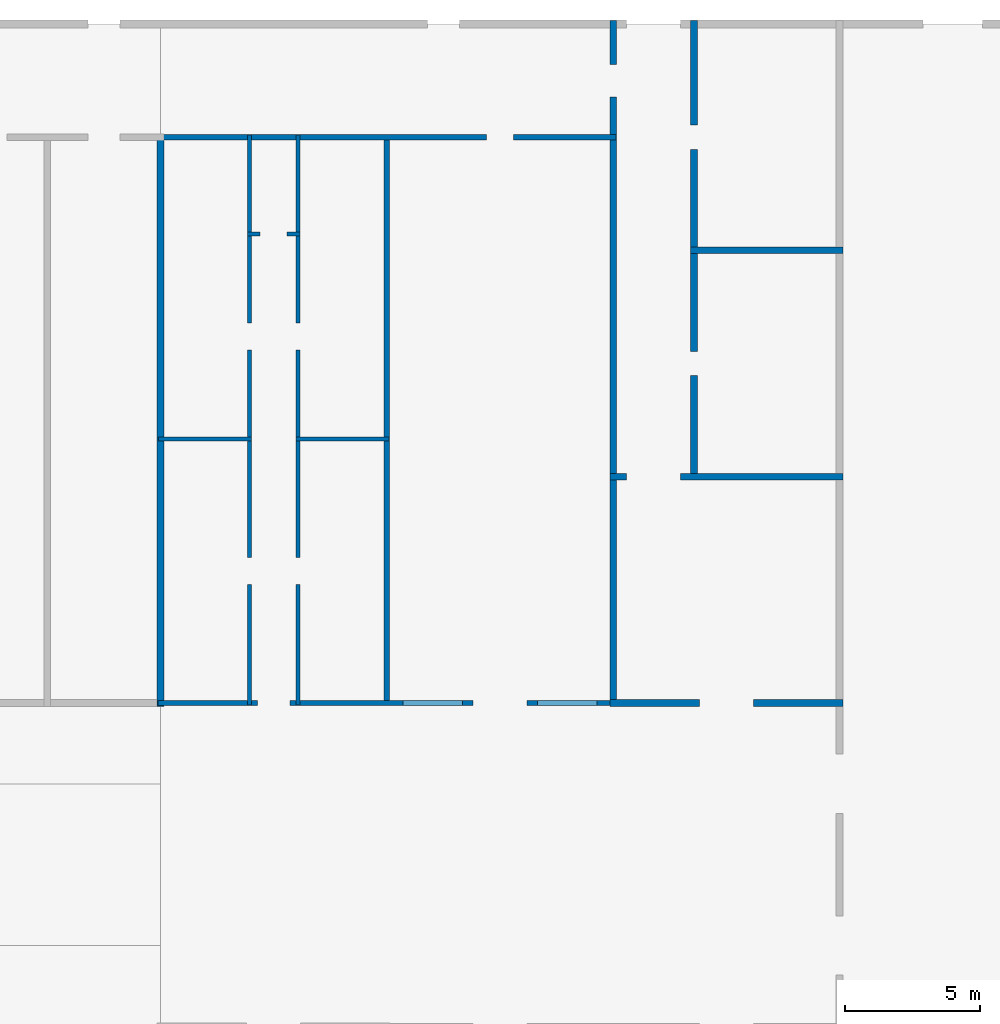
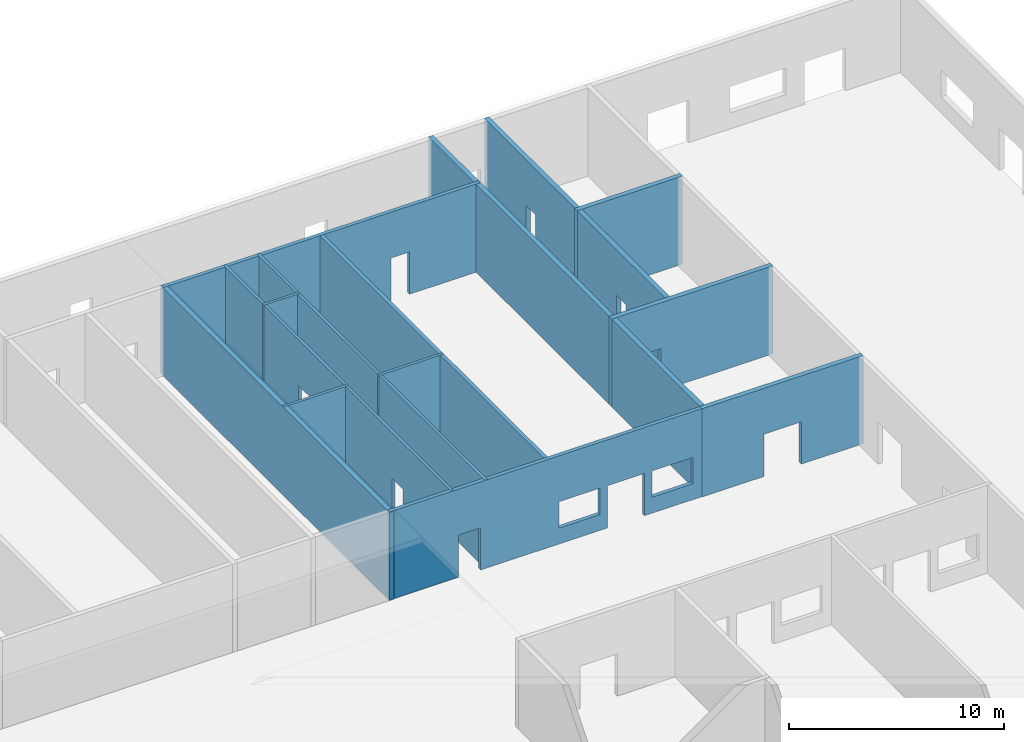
# One storey, part 4 of 4: 14 walls, 18 openings.
"""IFC4 building model written with IfcOpenShell, lengths in millimetres."""

from ifc_helpers import new_model, si_unit, frame, origin_with_axes, place, context, subcontext, project, spatial, indexed_curve, outline, extrude, type_object, element, save


model = new_model("IFC4")

# Units and contexts
model_context = context("Model", 3, precision=1e-05, world=origin_with_axes())
body_context = subcontext(model_context, "Body", "Model", "MODEL_VIEW")
ifc_project = project(units=[si_unit("AREAUNIT", "SQUARE_METRE"), si_unit("VOLUMEUNIT", "CUBIC_METRE"), si_unit("LENGTHUNIT", "METRE", prefix="MILLI")], contexts=[model_context])

# Site, building, storey
site = spatial("IfcSite", under=ifc_project, Name="PIN 00000000 (sample)")
building = spatial("IfcBuilding", under=site, Name="Sample Shopping Mall")
storey = spatial("IfcBuildingStorey", under=building, Name="Ground Floor", Elevation=0.0)

# Wall, openings
wall_type_1 = type_object("IfcWallType", Name="WT-200", PredefinedType="SOLIDWALL")
wall_1_placement = place(None, frame((72500.0, 52699.99999999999, 0.0), z_axis=(0.0, 0.0, 1.0), x_axis=(1.0, 0.0, 0.0)))
wall_1 = element("IfcWall", 1, at=wall_1_placement, inside=storey, type_object=wall_type_1, Name="W17", context=body_context, shape_type="SweptSolid", body=[
    extrude(outline(indexed_curve([(0.0, 0.0), (0.0, 200.0), (17000.00000000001, 200.0), (17000.00000000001, 0.0), (0.0, 0.0)], self_intersect=False)), origin_with_axes(), (0.0, 0.0, 1.0), 5000.0),
])
opening_1_placement = place(wall_1_placement, frame((3699.9999999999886, -100.00000000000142, 0.0), z_axis=(0.0, 0.0, 1.0), x_axis=(1.0, 0.0, 0.0)))
element("IfcOpeningElement", 2, at=opening_1_placement, cuts=wall_1, Name="D74-opening", context=body_context, shape_type="SweptSolid", body=[
    extrude(outline(indexed_curve([(0.0, 0.0), (0.0, 400.0), (1200.0, 400.0), (1200.0, 0.0), (0.0, 0.0)], self_intersect=False)), origin_with_axes(), (0.0, 0.0, 1.0), 2400.0),
])
opening_2_placement = place(wall_1_placement, frame((11699.999999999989, -100.00000000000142, 0.0), z_axis=(0.0, 0.0, 1.0), x_axis=(1.0, 0.0, 0.0)))
element("IfcOpeningElement", 3, at=opening_2_placement, cuts=wall_1, Name="D80-opening", context=body_context, shape_type="SweptSolid", body=[
    extrude(outline(indexed_curve([(0.0, 0.0), (0.0, 400.0), (1000.0, 400.0), (1000.0, 0.0), (0.0, 0.0)], self_intersect=False)), origin_with_axes(), (0.0, 0.0, 1.0), 2400.0),
])
opening_3_placement = place(wall_1_placement, frame((12699.999999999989, -100.00000000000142, 0.0), z_axis=(0.0, 0.0, 1.0), x_axis=(1.0, 0.0, 0.0)))
element("IfcOpeningElement", 4, at=opening_3_placement, cuts=wall_1, Name="-opening", context=body_context, shape_type="SweptSolid", body=[
    extrude(outline(indexed_curve([(0.0, 0.0), (0.0, 400.0), (1000.0, 400.0), (1000.0, 0.0), (0.0, 0.0)], self_intersect=False)), origin_with_axes(), (0.0, 0.0, 1.0), 2400.0),
])
opening_4_placement = place(wall_1_placement, frame((9099.99999999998, -100.00000000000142, 900.0), z_axis=(0.0, 0.0, 1.0), x_axis=(1.0, 0.0, 0.0)))
element("IfcOpeningElement", 5, at=opening_4_placement, cuts=wall_1, Name="-opening", context=body_context, shape_type="SweptSolid", body=[
    extrude(outline(indexed_curve([(0.0, 0.0), (0.0, 400.0), (2200.0, 400.0), (2200.0, 0.0), (0.0, 0.0)], self_intersect=False)), origin_with_axes(), (0.0, 0.0, 1.0), 1500.0),
])
opening_5_placement = place(wall_1_placement, frame((14099.999999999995, -100.00000000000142, 900.0), z_axis=(0.0, 0.0, 1.0), x_axis=(1.0, 0.0, 0.0)))
element("IfcOpeningElement", 6, at=opening_5_placement, cuts=wall_1, Name="-opening", context=body_context, shape_type="SweptSolid", body=[
    extrude(outline(indexed_curve([(0.0, 0.0), (0.0, 400.0), (2200.0, 400.0), (2200.0, 0.0), (0.0, 0.0)], self_intersect=False)), origin_with_axes(), (0.0, 0.0, 1.0), 1500.0),
])

# Wall, opening
wall_2_placement = place(None, frame((72500.0, 73700.0, 0.0), z_axis=(0.0, 0.0, 1.0), x_axis=(1.0, 0.0, 0.0)))
wall_2 = element("IfcWall", 7, at=wall_2_placement, inside=storey, type_object=wall_type_1, Name="W33", context=body_context, shape_type="SweptSolid", body=[
    extrude(outline(indexed_curve([(0.0, 0.0), (0.0, 200.0), (17000.00000000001, 200.0), (17000.00000000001, 0.0), (0.0, 0.0)], self_intersect=False)), origin_with_axes(), (0.0, 0.0, 1.0), 5000.0),
])
opening_6_placement = place(wall_2_placement, frame((12199.999999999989, -99.99999999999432, 0.0), z_axis=(0.0, 0.0, 1.0), x_axis=(1.0, 0.0, 0.0)))
element("IfcOpeningElement", 8, at=opening_6_placement, cuts=wall_2, Name="-opening", context=body_context, shape_type="SweptSolid", body=[
    extrude(outline(indexed_curve([(0.0, 0.0), (0.0, 400.0), (1000.0, 400.0), (1000.0, 0.0), (0.0, 0.0)], self_intersect=False)), origin_with_axes(), (0.0, 0.0, 1.0), 2400.0),
])

# Wall
wall_3_placement = place(None, frame((81099.99999999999, 52699.99999999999, 0.0), z_axis=(0.0, 0.0, 1.0), x_axis=(6.123233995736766e-17, 1.0, 0.0)))
element("IfcWall", 9, at=wall_3_placement, inside=storey, type_object=wall_type_1, Name="W60", context=body_context, shape_type="SweptSolid", body=[
    extrude(outline(indexed_curve([(0.0, 0.0), (0.0, 200.0), (21200.0, 200.0), (21200.0, 0.0), (0.0, 0.0)], self_intersect=False)), origin_with_axes(), (0.0, 0.0, 1.0), 5000.0),
])

# Wall, openings
wall_type_2 = type_object("IfcWallType", Name="WT-250", PredefinedType="SOLIDWALL")
wall_4_placement = place(None, frame((89275.0, 52674.99999999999, 0.0), z_axis=(0.0, 0.0, 1.0), x_axis=(1.0, 0.0, 0.0)))
wall_4 = element("IfcWall", 10, at=wall_4_placement, inside=storey, type_object=wall_type_2, Name="W18", context=body_context, shape_type="SweptSolid", body=[
    extrude(outline(indexed_curve([(0.0, 0.0), (0.0, 250.0), (8649.99999999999, 250.0), (8649.99999999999, 0.0), (0.0, 0.0)], self_intersect=False)), origin_with_axes(), (0.0, 0.0, 1.0), 5000.0),
])
opening_7_placement = place(wall_4_placement, frame((3325.0000000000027, -100.00000000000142, 0.0), z_axis=(0.0, 0.0, 1.0), x_axis=(1.0, 0.0, 0.0)))
element("IfcOpeningElement", 11, at=opening_7_placement, cuts=wall_4, Name="D82-opening", context=body_context, shape_type="SweptSolid", body=[
    extrude(outline(indexed_curve([(0.0, 0.0), (0.0, 450.0), (1000.0, 450.0), (1000.0, 0.0), (0.0, 0.0)], self_intersect=False)), origin_with_axes(), (0.0, 0.0, 1.0), 2400.0),
])
opening_8_placement = place(wall_4_placement, frame((4325.000000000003, -100.00000000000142, 0.0), z_axis=(0.0, 0.0, 1.0), x_axis=(1.0, 0.0, 0.0)))
element("IfcOpeningElement", 12, at=opening_8_placement, cuts=wall_4, Name="-opening", context=body_context, shape_type="SweptSolid", body=[
    extrude(outline(indexed_curve([(0.0, 0.0), (0.0, 450.0), (1000.0, 450.0), (1000.0, 0.0), (0.0, 0.0)], self_intersect=False)), origin_with_axes(), (0.0, 0.0, 1.0), 2400.0),
])

wall_5_placement = place(None, frame((89275.0, 61075.0, 0.0), z_axis=(0.0, 0.0, 1.0), x_axis=(1.0, 0.0, 0.0)))
wall_5 = element("IfcWall", 13, at=wall_5_placement, inside=storey, type_object=wall_type_2, Name="W20", context=body_context, shape_type="SweptSolid", body=[
    extrude(outline(indexed_curve([(0.0, 0.0), (0.0, 250.0), (8649.99999999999, 250.0), (8649.99999999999, 0.0), (0.0, 0.0)], self_intersect=False)), origin_with_axes(), (0.0, 0.0, 1.0), 5000.0),
])
opening_9_placement = place(wall_5_placement, frame((625.0, -100.00000000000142, 0.0), z_axis=(0.0, 0.0, 1.0), x_axis=(1.0, 0.0, 0.0)))
element("IfcOpeningElement", 14, at=opening_9_placement, cuts=wall_5, Name="D83-opening", context=body_context, shape_type="SweptSolid", body=[
    extrude(outline(indexed_curve([(0.0, 0.0), (0.0, 450.0), (1000.0, 450.0), (1000.0, 0.0), (0.0, 0.0)], self_intersect=False)), origin_with_axes(), (0.0, 0.0, 1.0), 2400.0),
])
opening_10_placement = place(wall_5_placement, frame((1625.0, -100.00000000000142, 0.0), z_axis=(0.0, 0.0, 1.0), x_axis=(1.0, 0.0, 0.0)))
element("IfcOpeningElement", 15, at=opening_10_placement, cuts=wall_5, Name="-opening", context=body_context, shape_type="SweptSolid", body=[
    extrude(outline(indexed_curve([(0.0, 0.0), (0.0, 450.0), (1000.0, 450.0), (1000.0, 0.0), (0.0, 0.0)], self_intersect=False)), origin_with_axes(), (0.0, 0.0, 1.0), 2400.0),
])

# Walls
wall_6_placement = place(None, frame((92275.0, 69475.0, 0.0), z_axis=(0.0, 0.0, 1.0), x_axis=(1.0, 0.0, 0.0)))
element("IfcWall", 16, at=wall_6_placement, inside=storey, type_object=wall_type_2, Name="W26", context=body_context, shape_type="SweptSolid", body=[
    extrude(outline(indexed_curve([(0.0, 0.0), (0.0, 250.0), (5649.999999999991, 250.0), (5649.999999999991, 0.0), (0.0, 0.0)], self_intersect=False)), origin_with_axes(), (0.0, 0.0, 1.0), 5000.0),
])
wall_7_placement = place(None, frame((72725.0, 52674.99999999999, 0.0), z_axis=(0.0, 0.0, 1.0), x_axis=(6.123233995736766e-17, 1.0, 0.0)))
element("IfcWall", 17, at=wall_7_placement, inside=storey, type_object=wall_type_2, Name="W55", context=body_context, shape_type="SweptSolid", body=[
    extrude(outline(indexed_curve([(0.0, 0.0), (0.0, 250.0), (21250.0, 250.0), (21250.0, 0.0), (0.0, 0.0)], self_intersect=False)), origin_with_axes(), (0.0, 0.0, 1.0), 5000.0),
])

# Wall, opening
wall_8_placement = place(None, frame((89525.0, 52674.99999999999, 0.0), z_axis=(0.0, 0.0, 1.0), x_axis=(6.123233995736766e-17, 1.0, 0.0)))
wall_8 = element("IfcWall", 18, at=wall_8_placement, inside=storey, type_object=wall_type_2, Name="W62", context=body_context, shape_type="SweptSolid", body=[
    extrude(outline(indexed_curve([(0.0, 0.0), (0.0, 250.0), (25450.000000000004, 250.0), (25450.000000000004, 0.0), (0.0, 0.0)], self_intersect=False)), origin_with_axes(), (0.0, 0.0, 1.0), 5000.0),
])
opening_11_placement = place(wall_8_placement, frame((22624.999999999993, -99.99999999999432, 0.0), z_axis=(0.0, 0.0, 1.0), x_axis=(1.0, 0.0, 0.0)))
element("IfcOpeningElement", 19, at=opening_11_placement, cuts=wall_8, Name="-opening", context=body_context, shape_type="SweptSolid", body=[
    extrude(outline(indexed_curve([(0.0, 0.0), (0.0, 450.0), (1200.0, 450.0), (1200.0, 0.0), (0.0, 0.0)], self_intersect=False)), origin_with_axes(), (0.0, 0.0, 1.0), 2400.0),
])

# Wall, openings
wall_9_placement = place(None, frame((92525.0, 61075.0, 0.0), z_axis=(0.0, 0.0, 1.0), x_axis=(6.123233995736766e-17, 1.0, 0.0)))
wall_9 = element("IfcWall", 20, at=wall_9_placement, inside=storey, type_object=wall_type_2, Name="W63", context=body_context, shape_type="SweptSolid", body=[
    extrude(outline(indexed_curve([(0.0, 0.0), (0.0, 250.0), (17049.999999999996, 250.0), (17049.999999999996, 0.0), (0.0, 0.0)], self_intersect=False)), origin_with_axes(), (0.0, 0.0, 1.0), 5000.0),
])
opening_12_placement = place(wall_9_placement, frame((3874.9999999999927, -99.99999999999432, 0.0), z_axis=(0.0, 0.0, 1.0), x_axis=(1.0, 0.0, 0.0)))
element("IfcOpeningElement", 21, at=opening_12_placement, cuts=wall_9, Name="-opening", context=body_context, shape_type="SweptSolid", body=[
    extrude(outline(indexed_curve([(0.0, 0.0), (0.0, 450.0), (900.0, 450.0), (900.0, 0.0), (0.0, 0.0)], self_intersect=False)), origin_with_axes(), (0.0, 0.0, 1.0), 2400.0),
])
opening_13_placement = place(wall_9_placement, frame((12274.999999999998, -99.99999999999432, 0.0), z_axis=(0.0, 0.0, 1.0), x_axis=(1.0, 0.0, 0.0)))
element("IfcOpeningElement", 22, at=opening_13_placement, cuts=wall_9, Name="-opening", context=body_context, shape_type="SweptSolid", body=[
    extrude(outline(indexed_curve([(0.0, 0.0), (0.0, 450.0), (900.0, 450.0), (900.0, 0.0), (0.0, 0.0)], self_intersect=False)), origin_with_axes(), (0.0, 0.0, 1.0), 2400.0),
])

# Walls
wall_type_3 = type_object("IfcWallType", Name="WT-150", PredefinedType="SOLIDWALL")
wall_10_placement = place(None, frame((72524.99999999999, 62525.0, 0.0), z_axis=(0.0, 0.0, 1.0), x_axis=(1.0, 0.0, 0.0)))
element("IfcWall", 23, at=wall_10_placement, inside=storey, type_object=wall_type_3, Name="W23", context=body_context, shape_type="SweptSolid", body=[
    extrude(outline(indexed_curve([(0.0, 0.0), (0.0, 150.0), (3450.0000000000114, 150.0), (3450.0000000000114, 0.0), (0.0, 0.0)], self_intersect=False)), origin_with_axes(), (0.0, 0.0, 1.0), 5000.0),
])
wall_11_placement = place(None, frame((77625.0, 62525.0, 0.0), z_axis=(0.0, 0.0, 1.0), x_axis=(1.0, 0.0, 0.0)))
element("IfcWall", 24, at=wall_11_placement, inside=storey, type_object=wall_type_3, Name="W24", context=body_context, shape_type="SweptSolid", body=[
    extrude(outline(indexed_curve([(0.0, 0.0), (0.0, 150.0), (3449.999999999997, 150.0), (3449.999999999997, 0.0), (0.0, 0.0)], self_intersect=False)), origin_with_axes(), (0.0, 0.0, 1.0), 5000.0),
])

# Wall, opening
wall_12_placement = place(None, frame((75825.0, 70125.0, 0.0), z_axis=(0.0, 0.0, 1.0), x_axis=(1.0, 0.0, 0.0)))
wall_12 = element("IfcWall", 25, at=wall_12_placement, inside=storey, type_object=wall_type_3, Name="W28", context=body_context, shape_type="SweptSolid", body=[
    extrude(outline(indexed_curve([(0.0, 0.0), (0.0, 150.0), (1949.999999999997, 150.0), (1949.999999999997, 0.0), (0.0, 0.0)], self_intersect=False)), origin_with_axes(), (0.0, 0.0, 1.0), 5000.0),
])
opening_14_placement = place(wall_12_placement, frame((475.0000000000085, -99.99999999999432, 0.0), z_axis=(0.0, 0.0, 1.0), x_axis=(1.0, 0.0, 0.0)))
element("IfcOpeningElement", 26, at=opening_14_placement, cuts=wall_12, Name="-opening", context=body_context, shape_type="SweptSolid", body=[
    extrude(outline(indexed_curve([(0.0, 0.0), (0.0, 349.99999999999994), (1000.0, 349.99999999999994), (1000.0, 0.0), (0.0, 0.0)], self_intersect=False)), origin_with_axes(), (0.0, 0.0, 1.0), 2400.0),
])

# Wall, openings
wall_13_placement = place(None, frame((75975.0, 52724.99999999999, 0.0), z_axis=(0.0, 0.0, 1.0), x_axis=(6.123233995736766e-17, 1.0, 0.0)))
wall_13 = element("IfcWall", 27, at=wall_13_placement, inside=storey, type_object=wall_type_3, Name="W57", context=body_context, shape_type="SweptSolid", body=[
    extrude(outline(indexed_curve([(0.0, 0.0), (0.0, 150.0), (21149.999999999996, 150.0), (21149.999999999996, 0.0), (0.0, 0.0)], self_intersect=False)), origin_with_axes(), (0.0, 0.0, 1.0), 5000.0),
])
opening_15_placement = place(wall_13_placement, frame((4475.000000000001, -99.99999999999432, 0.0), z_axis=(0.0, 0.0, 1.0), x_axis=(1.0, 0.0, 0.0)))
element("IfcOpeningElement", 28, at=opening_15_placement, cuts=wall_13, Name="-opening", context=body_context, shape_type="SweptSolid", body=[
    extrude(outline(indexed_curve([(0.0, 0.0), (0.0, 349.99999999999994), (1000.0, 349.99999999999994), (1000.0, 0.0), (0.0, 0.0)], self_intersect=False)), origin_with_axes(), (0.0, 0.0, 1.0), 2400.0),
])
opening_16_placement = place(wall_13_placement, frame((13174.999999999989, -99.99999999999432, 0.0), z_axis=(0.0, 0.0, 1.0), x_axis=(1.0, 0.0, 0.0)))
element("IfcOpeningElement", 29, at=opening_16_placement, cuts=wall_13, Name="-opening", context=body_context, shape_type="SweptSolid", body=[
    extrude(outline(indexed_curve([(0.0, 0.0), (0.0, 349.99999999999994), (1000.0, 349.99999999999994), (1000.0, 0.0), (0.0, 0.0)], self_intersect=False)), origin_with_axes(), (0.0, 0.0, 1.0), 2400.0),
])

wall_14_placement = place(None, frame((77775.0, 52724.99999999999, 0.0), z_axis=(0.0, 0.0, 1.0), x_axis=(6.123233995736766e-17, 1.0, 0.0)))
wall_14 = element("IfcWall", 30, at=wall_14_placement, inside=storey, type_object=wall_type_3, Name="W58", context=body_context, shape_type="SweptSolid", body=[
    extrude(outline(indexed_curve([(0.0, 0.0), (0.0, 150.0), (21149.999999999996, 150.0), (21149.999999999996, 0.0), (0.0, 0.0)], self_intersect=False)), origin_with_axes(), (0.0, 0.0, 1.0), 5000.0),
])
opening_17_placement = place(wall_14_placement, frame((4475.000000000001, -99.99999999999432, 0.0), z_axis=(0.0, 0.0, 1.0), x_axis=(1.0, 0.0, 0.0)))
element("IfcOpeningElement", 31, at=opening_17_placement, cuts=wall_14, Name="-opening", context=body_context, shape_type="SweptSolid", body=[
    extrude(outline(indexed_curve([(0.0, 0.0), (0.0, 349.99999999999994), (1000.0, 349.99999999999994), (1000.0, 0.0), (0.0, 0.0)], self_intersect=False)), origin_with_axes(), (0.0, 0.0, 1.0), 2400.0),
])
opening_18_placement = place(wall_14_placement, frame((13174.999999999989, -99.99999999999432, 0.0), z_axis=(0.0, 0.0, 1.0), x_axis=(1.0, 0.0, 0.0)))
element("IfcOpeningElement", 32, at=opening_18_placement, cuts=wall_14, Name="-opening", context=body_context, shape_type="SweptSolid", body=[
    extrude(outline(indexed_curve([(0.0, 0.0), (0.0, 349.99999999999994), (1000.0, 349.99999999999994), (1000.0, 0.0), (0.0, 0.0)], self_intersect=False)), origin_with_axes(), (0.0, 0.0, 1.0), 2400.0),
])

save(model, "model.ifc")
